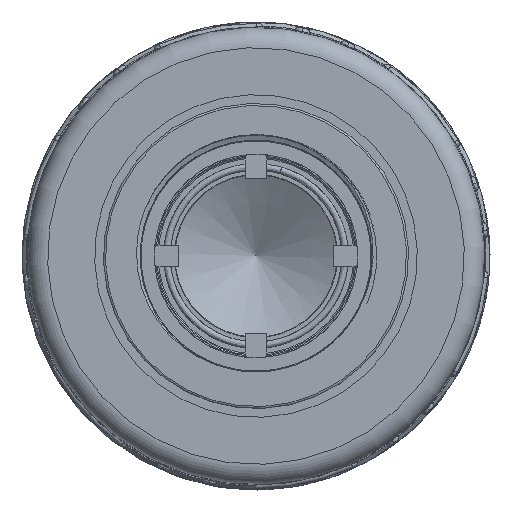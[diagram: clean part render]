
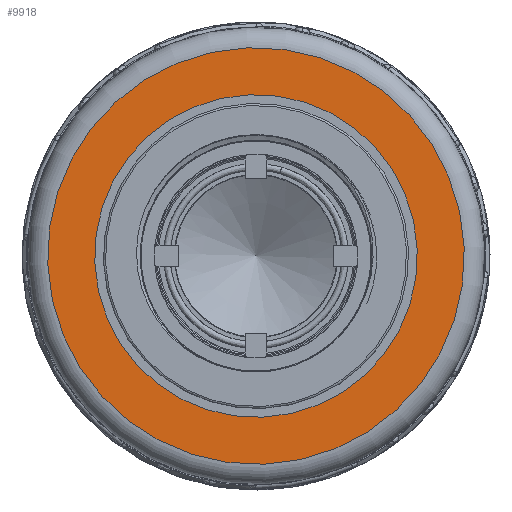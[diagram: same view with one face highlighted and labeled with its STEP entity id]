
A CAD part, front view. The second image highlights one B-rep face of the part: STEP entity #9918.
In plain terms, the highlighted planar face has unit normal (0, -1, 0).
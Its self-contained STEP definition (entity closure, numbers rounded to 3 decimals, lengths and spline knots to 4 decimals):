
#1932=FACE_BOUND('',#2931,.T.);
#2299=FACE_OUTER_BOUND('',#2930,.T.);
#2930=EDGE_LOOP('',(#7646));
#2931=EDGE_LOOP('',(#7647));
#3462=CIRCLE('',#10690,5.12);
#3463=CIRCLE('',#10691,3.965);
#4236=VERTEX_POINT('',#47235);
#4237=VERTEX_POINT('',#47237);
#5457=EDGE_CURVE('',#4236,#4236,#3462,.T.);
#5458=EDGE_CURVE('',#4237,#4237,#3463,.T.);
#7646=ORIENTED_EDGE('',*,*,#5457,.F.);
#7647=ORIENTED_EDGE('',*,*,#5458,.T.);
#8948=PLANE('',#10689);
#9918=ADVANCED_FACE('',(#2299,#1932),#8948,.T.);
#10689=AXIS2_PLACEMENT_3D('',#47234,#12468,#12469);
#10690=AXIS2_PLACEMENT_3D('',#47236,#12470,#12471);
#10691=AXIS2_PLACEMENT_3D('',#47238,#12472,#12473);
#12468=DIRECTION('center_axis',(0.,-1.,0.));
#12469=DIRECTION('ref_axis',(-0.977,0.,-0.213));
#12470=DIRECTION('center_axis',(0.,1.,0.));
#12471=DIRECTION('ref_axis',(0.213,0.,-0.977));
#12472=DIRECTION('center_axis',(0.,1.,0.));
#12473=DIRECTION('ref_axis',(0.213,0.,-0.977));
#47234=CARTESIAN_POINT('Origin',(-1.0883,-5.82,5.003));
#47235=CARTESIAN_POINT('',(-1.0883,-5.82,5.003));
#47236=CARTESIAN_POINT('Origin',(0.,-5.82,0.));
#47237=CARTESIAN_POINT('',(-0.8428,-5.82,3.8744));
#47238=CARTESIAN_POINT('Origin',(0.,-5.82,0.));
